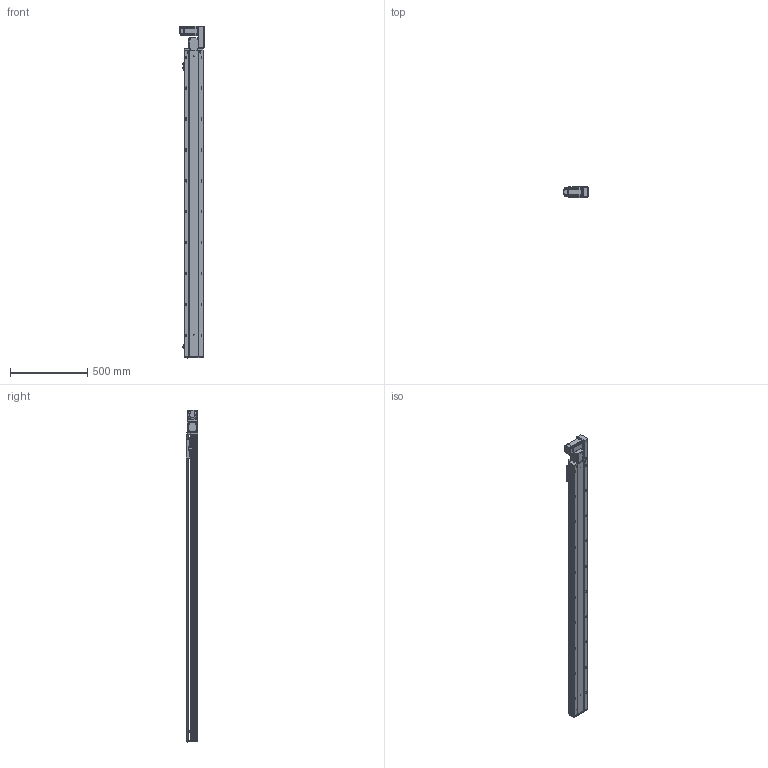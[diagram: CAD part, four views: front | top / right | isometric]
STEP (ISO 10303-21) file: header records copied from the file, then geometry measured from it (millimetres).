
FILE_DESCRIPTION (( 'STEP AP203' ), '1' );
FILE_NAME ('RY120-T-300-RK.SLDASM_1750.step', '2021-03-01T03:54:54', ( '盈信电脑' ), ( '东莞市道滘镇水果街19号' ), 'SwSTEP 2.0', 'SolidWorks 2012', '' );
FILE_SCHEMA (( 'CONFIG_CONTROL_DESIGN' ));
Length unit declared in the file: millimetre
Products named in the file (17): RY120-T翋肮祭謫裔啣; RY120-T-300-RK.SLDASM_1750; RY120-T萇儂欶; RY120-T主同步轮轴承压盖; RY120-T蹟翐M4; 15; RY120-T萇儂假蚾啣; RY120-T-300-RK倰第奻裔啣_1750; RY120肮祭湍臏賑輸; RY120-T-300-RK倰第菁釱_1750; 覜茼ん672; RY120外置感应片(140共用）; RY120-T肮祭湍揤踡輸1; RY120綴裔啣; 滅袉蝶18-10; RY120-T翋肮祭盓傅釱; RY120-T肮祭湍揤踡輸2
Assembly tree (22 placements, depth 2):
  RY120-T-300-RK.SLDASM_1750
    RY120-T-300-RK倰第菁釱_1750
    RY120-T-300-RK倰第奻裔啣_1750
    RY120肮祭湍臏賑輸
    RY120綴裔啣
    覜茼ん672  x3
    RY120外置感应片(140共用）
    RY120-T肮祭湍揤踡輸1
    RY120-T肮祭湍揤踡輸2
    RY120-T翋肮祭盓傅釱
    滅袉蝶18-10  x2
    RY120-T翋肮祭謫裔啣
    15
    RY120-T萇儂假蚾啣
    RY120-T蹟翐M4  x4
    RY120-T萇儂欶
    RY120-T主同步轮轴承压盖
Bounding box: 155.5 x 73 x 2147.5 mm (x, y, z)
Volume: 5259163.7 mm3; surface area: 2001393.9 mm2
Topology: 23 solids, 23 shells, 3042 faces, 8316 edges, 5304 vertices
Faces by surface type: plane 1442, cylinder 1204, cone 307, bspline 89
Entity records: 97575 total; most frequent: CARTESIAN_POINT 25338, ORIENTED_EDGE 14952, DIRECTION 14118, EDGE_CURVE 7476, VERTEX_POINT 4891, AXIS2_PLACEMENT_3D 4783, LINE 4552, VECTOR 4552
